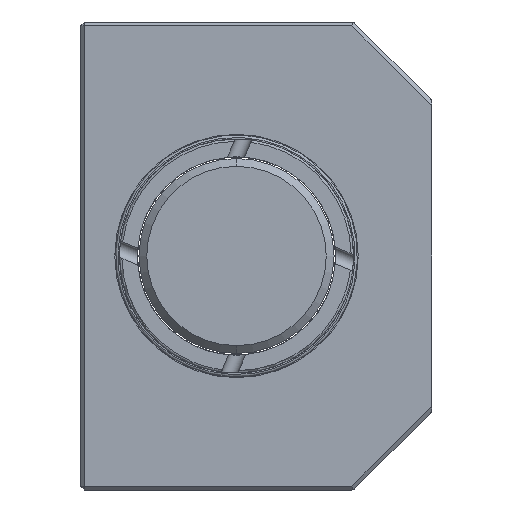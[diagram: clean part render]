
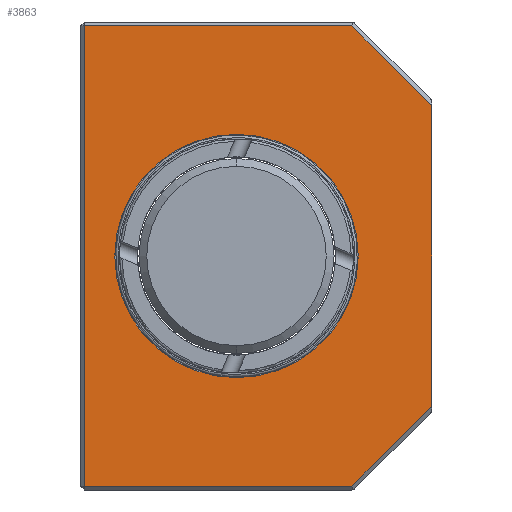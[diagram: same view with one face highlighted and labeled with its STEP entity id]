
A CAD part, left-side view. The second image highlights one B-rep face of the part: STEP entity #3863.
In plain terms, the highlighted planar face has unit normal (-1, 0, 0).
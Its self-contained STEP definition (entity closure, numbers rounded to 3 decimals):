
#16 = CARTESIAN_POINT ( 'NONE',  ( 0., -18.543, 29.5 ) ) ;
#83 = EDGE_CURVE ( 'NONE', #1885, #4211, #1074, .T. ) ;
#143 = AXIS2_PLACEMENT_3D ( 'NONE', #3206, #1881, #885 ) ;
#239 = CARTESIAN_POINT ( 'NONE',  ( 0., 0., 29.5 ) ) ;
#273 = DIRECTION ( 'NONE',  ( 0., 0., -1. ) ) ;
#337 = CARTESIAN_POINT ( 'NONE',  ( 0., 15.75, 0. ) ) ;
#347 = ORIENTED_EDGE ( 'NONE', *, *, #2152, .T. ) ;
#392 = CIRCLE ( 'NONE', #3730, 15.6 ) ;
#488 = ORIENTED_EDGE ( 'NONE', *, *, #2100, .T. ) ;
#500 = VECTOR ( 'NONE', #3765, 1000. ) ;
#571 = VERTEX_POINT ( 'NONE', #2854 ) ;
#689 = CARTESIAN_POINT ( 'NONE',  ( 0., -3.75, 0. ) ) ;
#697 = CARTESIAN_POINT ( 'NONE',  ( 0., 15.75, 29.5 ) ) ;
#702 = VERTEX_POINT ( 'NONE', #2954 ) ;
#757 = LINE ( 'NONE', #1597, #3257 ) ;
#765 = ORIENTED_EDGE ( 'NONE', *, *, #1234, .F. ) ;
#774 = EDGE_CURVE ( 'NONE', #1661, #4176, #4164, .T. ) ;
#885 = DIRECTION ( 'NONE',  ( 0., 0., -1. ) ) ;
#896 = DIRECTION ( 'NONE',  ( 0., 0., -1. ) ) ;
#997 = LINE ( 'NONE', #3902, #1926 ) ;
#1051 = CARTESIAN_POINT ( 'NONE',  ( 0., 15.75, -29.5 ) ) ;
#1074 = LINE ( 'NONE', #1818, #3676 ) ;
#1213 = LINE ( 'NONE', #239, #4210 ) ;
#1234 = EDGE_CURVE ( 'NONE', #1885, #571, #757, .T. ) ;
#1298 = DIRECTION ( 'NONE',  ( 0., 0., -1. ) ) ;
#1360 = EDGE_CURVE ( 'NONE', #1410, #702, #1530, .T. ) ;
#1361 = EDGE_LOOP ( 'NONE', ( #347, #3114, #765, #4235, #3898, #1743 ) ) ;
#1410 = VERTEX_POINT ( 'NONE', #2848 ) ;
#1530 = CIRCLE ( 'NONE', #143, 15.6 ) ;
#1573 = CARTESIAN_POINT ( 'NONE',  ( 0., 0., 0. ) ) ;
#1597 = CARTESIAN_POINT ( 'NONE',  ( 0., -28.75, 30. ) ) ;
#1661 = VERTEX_POINT ( 'NONE', #697 ) ;
#1743 = ORIENTED_EDGE ( 'NONE', *, *, #774, .T. ) ;
#1818 = CARTESIAN_POINT ( 'NONE',  ( 0., -24.021, 24.021 ) ) ;
#1826 = PLANE ( 'NONE',  #2568 ) ;
#1842 = LINE ( 'NONE', #3750, #500 ) ;
#1855 = DIRECTION ( 'NONE',  ( 0., 1., 0. ) ) ;
#1881 = DIRECTION ( 'NONE',  ( 1., 0., 0. ) ) ;
#1885 = VERTEX_POINT ( 'NONE', #3139 ) ;
#1909 = EDGE_LOOP ( 'NONE', ( #488, #4256 ) ) ;
#1920 = DIRECTION ( 'NONE',  ( 0., -0.707, 0.707 ) ) ;
#1926 = VECTOR ( 'NONE', #1920, 1000. ) ;
#2037 = FACE_OUTER_BOUND ( 'NONE', #1361, .T. ) ;
#2100 = EDGE_CURVE ( 'NONE', #702, #1410, #392, .T. ) ;
#2152 = EDGE_CURVE ( 'NONE', #4176, #3406, #1842, .T. ) ;
#2287 = EDGE_CURVE ( 'NONE', #4211, #1661, #1213, .T. ) ;
#2568 = AXIS2_PLACEMENT_3D ( 'NONE', #1573, #3870, #896 ) ;
#2694 = VECTOR ( 'NONE', #1298, 1000. ) ;
#2699 = DIRECTION ( 'NONE',  ( 0., 0., -1. ) ) ;
#2763 = DIRECTION ( 'NONE',  ( 0., 0.707, 0.707 ) ) ;
#2848 = CARTESIAN_POINT ( 'NONE',  ( 0., -3.75, -15.6 ) ) ;
#2854 = CARTESIAN_POINT ( 'NONE',  ( 0., -28.75, -19.293 ) ) ;
#2889 = CARTESIAN_POINT ( 'NONE',  ( 0., -18.543, -29.5 ) ) ;
#2954 = CARTESIAN_POINT ( 'NONE',  ( 0., -3.75, 15.6 ) ) ;
#3114 = ORIENTED_EDGE ( 'NONE', *, *, #3937, .T. ) ;
#3139 = CARTESIAN_POINT ( 'NONE',  ( 0., -28.75, 19.293 ) ) ;
#3206 = CARTESIAN_POINT ( 'NONE',  ( 0., -3.75, 0. ) ) ;
#3257 = VECTOR ( 'NONE', #273, 1000. ) ;
#3406 = VERTEX_POINT ( 'NONE', #2889 ) ;
#3676 = VECTOR ( 'NONE', #2763, 1000. ) ;
#3692 = DIRECTION ( 'NONE',  ( 1., 0., 0. ) ) ;
#3711 = FACE_BOUND ( 'NONE', #1909, .T. ) ;
#3730 = AXIS2_PLACEMENT_3D ( 'NONE', #689, #3692, #2699 ) ;
#3750 = CARTESIAN_POINT ( 'NONE',  ( 0., 0., -29.5 ) ) ;
#3765 = DIRECTION ( 'NONE',  ( 0., -1., 0. ) ) ;
#3863 = ADVANCED_FACE ( 'NONE', ( #2037, #3711 ), #1826, .F. ) ;
#3870 = DIRECTION ( 'NONE',  ( 1., 0., 0. ) ) ;
#3898 = ORIENTED_EDGE ( 'NONE', *, *, #2287, .T. ) ;
#3902 = CARTESIAN_POINT ( 'NONE',  ( 0., -28.396, -19.646 ) ) ;
#3937 = EDGE_CURVE ( 'NONE', #3406, #571, #997, .T. ) ;
#4164 = LINE ( 'NONE', #337, #2694 ) ;
#4176 = VERTEX_POINT ( 'NONE', #1051 ) ;
#4210 = VECTOR ( 'NONE', #1855, 1000. ) ;
#4211 = VERTEX_POINT ( 'NONE', #16 ) ;
#4235 = ORIENTED_EDGE ( 'NONE', *, *, #83, .T. ) ;
#4256 = ORIENTED_EDGE ( 'NONE', *, *, #1360, .T. ) ;
